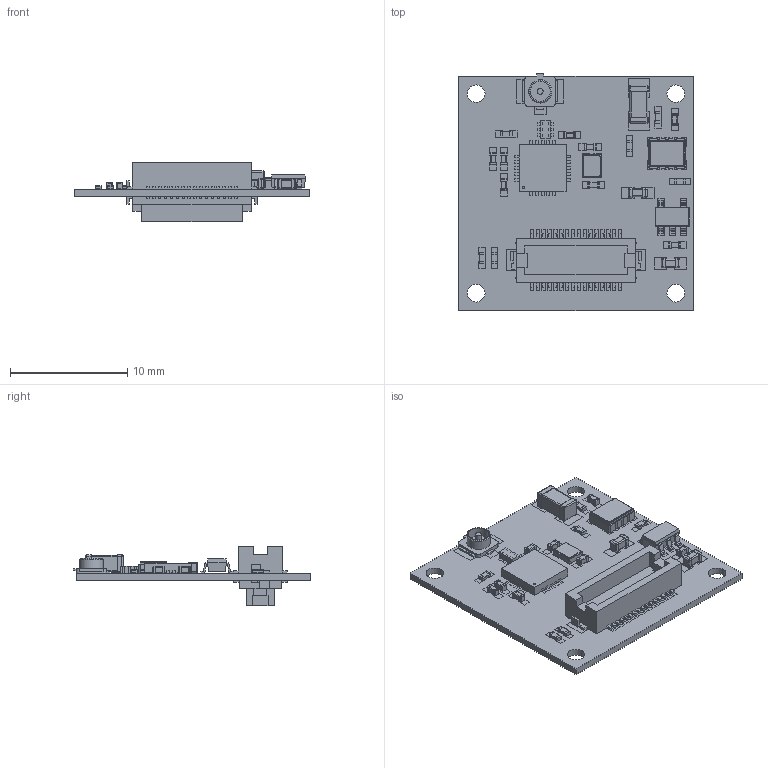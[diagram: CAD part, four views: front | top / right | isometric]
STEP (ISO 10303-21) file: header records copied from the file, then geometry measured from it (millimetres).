
FILE_DESCRIPTION(('FreeCAD Model'),'2;1');
FILE_NAME('/home/devy/MEGA/TinyCircuits/Assets/BoardsANDBoardModels_2/Shields/TinyCircuits-TinyShield-NRF24L01-ASD2163/cad/TinyShield_NRF24L01_ASD2163_REV3-STEP.step','2020-07-14T22:55:12',(''),(''), 'Open CASCADE STEP processor 7.4','FreeCAD','Unknown');
FILE_SCHEMA(('AUTOMOTIVE_DESIGN { 1 0 10303 214 1 1 1 1 }'));
Products named in the file (1): TinyShield_NRF24L01_ASD2163_REV3-STEP
Bounding box: 20 x 20.25 x 5.1 mm (x, y, z)
Volume: 715.2 mm3; surface area: 2872.3 mm2
Topology: 399 solids, 399 shells, 4140 faces, 11920 edges, 10760 vertices
Faces by surface type: plane 3496, cylinder 482, sphere 140, revolution 20, cone 2
Full cylindrical faces by diameter (mm): 0.5 x8, 0.652 x8, 1.502 x8, 1.7 x2, 2 x2
Entity records: 304124 total; most frequent: CARTESIAN_POINT 51387, DIRECTION 39232, LINE 26630, VECTOR 26630, ORIENTED_EDGE 18696, PCURVE 18696, DEFINITIONAL_REPRESENTATION 18696, EDGE_CURVE 9348
